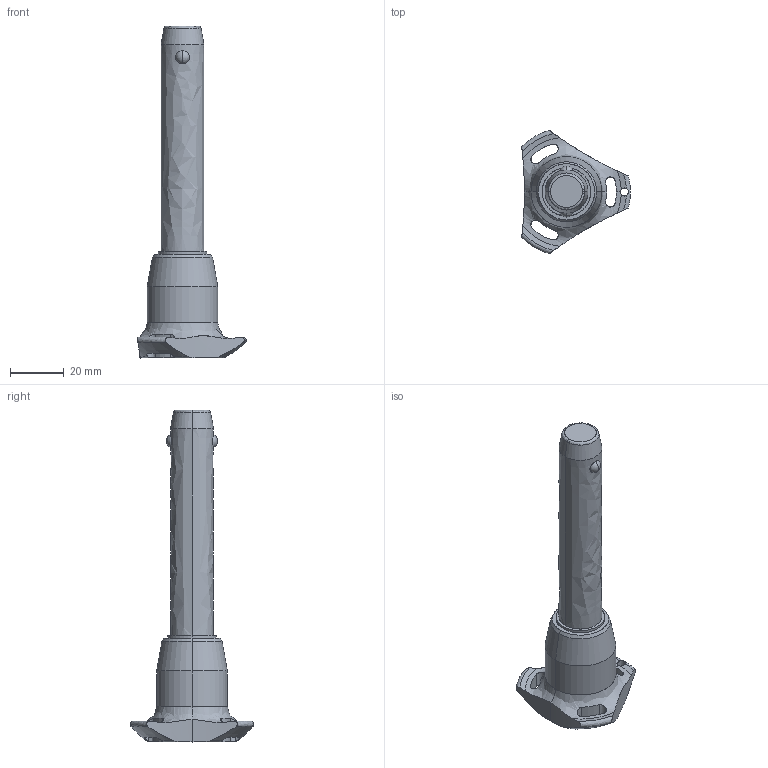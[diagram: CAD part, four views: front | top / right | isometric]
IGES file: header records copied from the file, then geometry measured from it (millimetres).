
Start section: SolidWorks IGES file using analytic representation for surfaces
Global section: file name: C:\Users\ianosborn\Desktop\QR1724_v2\QR1724_v2_20251112_IGES\QR1724.M16-070-S.igs; native system: SolidWorks 2019; preprocessor: SolidWorks 2019; author: IanOsborn; date: 251112.130333; units: millimetre
Bounding box: 40.5 x 45.88 x 123.7 mm (x, y, z)
Surface area: 10177.1 mm2 (no closed solid volume)
Topology: 0 solids, 0 shells, 65 faces, 1379 edges, 1375 vertices
Faces by surface type: revolution 50, bspline 15
